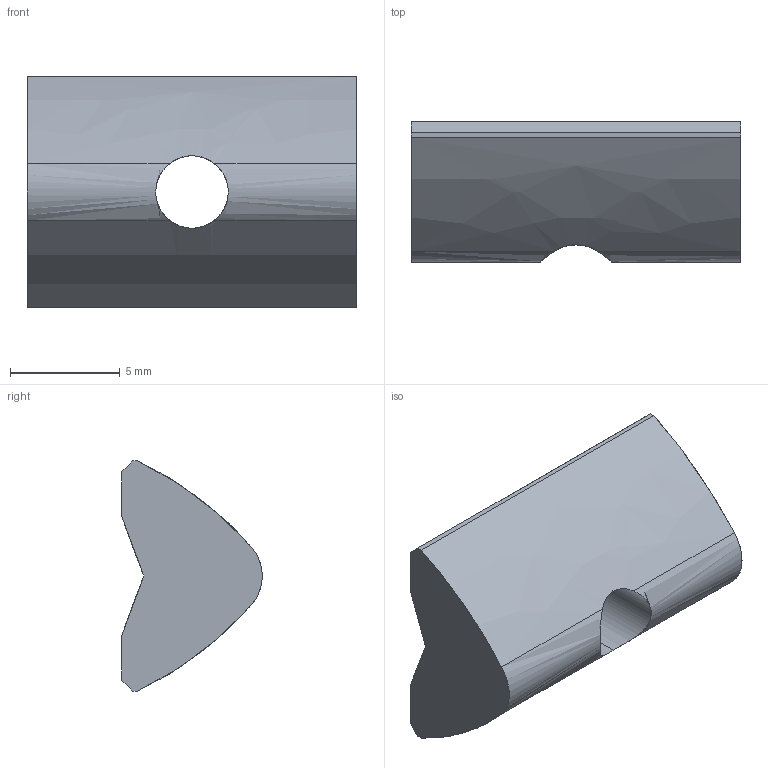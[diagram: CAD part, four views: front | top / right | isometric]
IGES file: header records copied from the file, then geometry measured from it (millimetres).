
Start section: SolidWorks IGES file using analytic representation for surfaces
Global section: file name: C:\Documents and Settings\CAD53\デスクトップ\IGES\N01914-108-0.IGS; native system: SolidWorks 2005 by SolidWorks Corporation; preprocessor: SolidWorks 2005 by SolidWorks Corporation; author: CAD53; date: 070530.094005; units: millimetre
Bounding box: 15 x 6.4 x 10.5 mm (x, y, z)
Surface area: 537.8 mm2 (no closed solid volume)
Topology: 0 solids, 0 shells, 16 faces, 206 edges, 206 vertices
Faces by surface type: bspline 10, revolution 6
